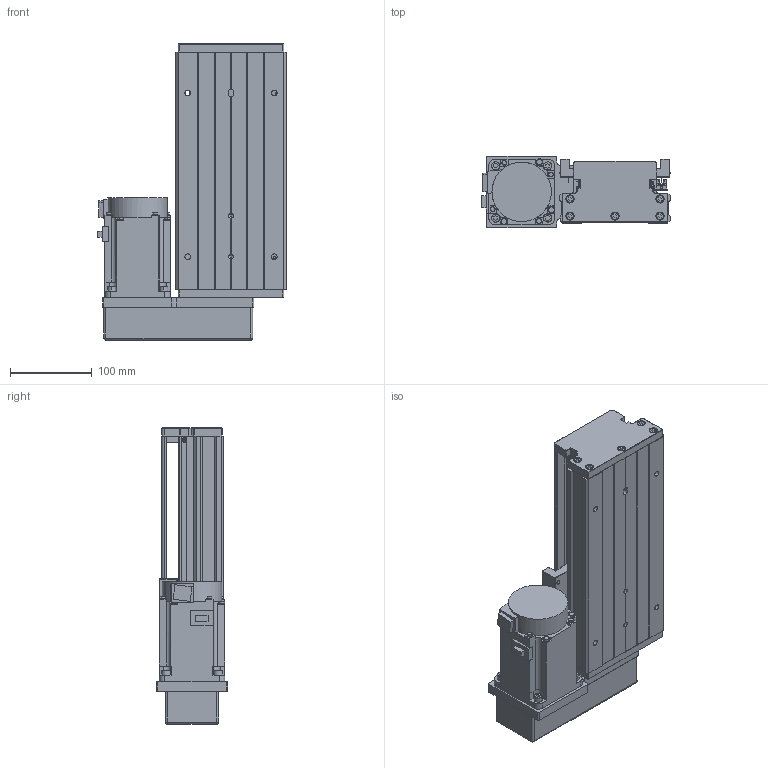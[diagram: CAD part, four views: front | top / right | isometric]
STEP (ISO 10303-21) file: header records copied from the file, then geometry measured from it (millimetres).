
FILE_DESCRIPTION (( 'STEP AP203' ), '1' );
FILE_NAME ('KTH130-150-BL-M75-C4.step', '2023-06-30T04:24:36', ( '微软用户' ), ( '微软中国' ), 'SwSTEP 2.0', 'SolidWorks 2020', '' );
FILE_SCHEMA (( 'CONFIG_CONTROL_DESIGN' ));
Length unit declared in the file: millimetre
Products named in the file (18): GBT 70.1-M3℅5; KTH130-150-BL-M75-C4; GB1155-6X6; GBT77-2000 M3×3; GBT70.1 M5℅16; す晦芛蹟隊 M3℅5; GBT 70.2-M3¡Á5_M3¡Á6; GBT 70.3-M3℅8; GTH14-001_150; KTH130-005; CTHA60-017; hg-kn73j_-s100; KTH130-002_KTH130-002; EE_SX911P_R; CTHA86-015-3_CTHA86-015-4; KTH130-004; CTHA60-016; CTHA86-035
Assembly tree (49 placements, depth 2):
  KTH130-150-BL-M75-C4
    GTH14-001_150
    KTH130-002_KTH130-002
    KTH130-004
    KTH130-005
    GB1155-6X6  x2
    GBT70.1 M5℅16  x10
    GBT 70.2-M3¡Á5_M3¡Á6  x4
    CTHA60-017  x3
    EE_SX911P_R  x3
    CTHA60-016  x2
    GBT 70.1-M3℅5  x6
    GBT77-2000 M3×3  x6
    す晦芛蹟隊 M3℅5  x2
    GBT 70.3-M3℅8  x4
    hg-kn73j_-s100
    CTHA86-015-3_CTHA86-015-4
    CTHA86-035
Bounding box: 230.3 x 87 x 362 mm (x, y, z)
Volume: 3164740.2 mm3; surface area: 461232.1 mm2
Topology: 52 solids, 52 shells, 2162 faces, 5244 edges, 3279 vertices
Faces by surface type: plane 1202, cylinder 606, cone 238, torus 100, sphere 16
Entity records: 39021 total; most frequent: CARTESIAN_POINT 6572, DIRECTION 6397, ORIENTED_EDGE 5992, EDGE_CURVE 2996, AXIS2_PLACEMENT_3D 2222, LINE 1953, VECTOR 1953, VERTEX_POINT 1913
